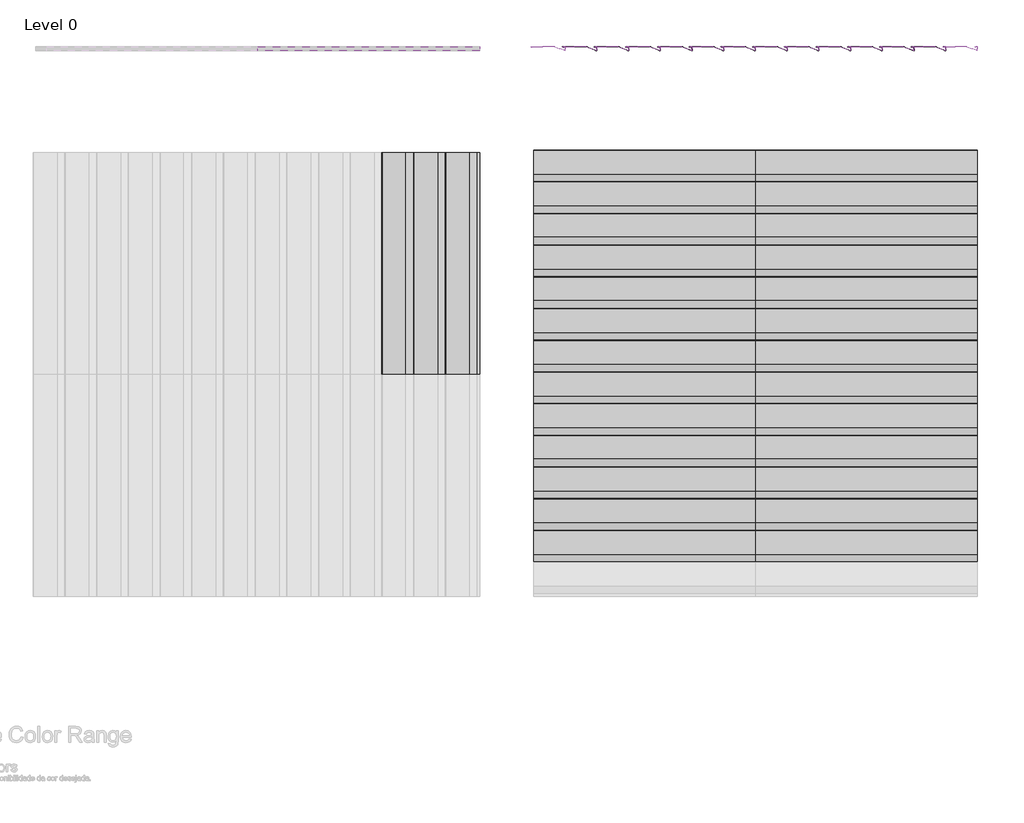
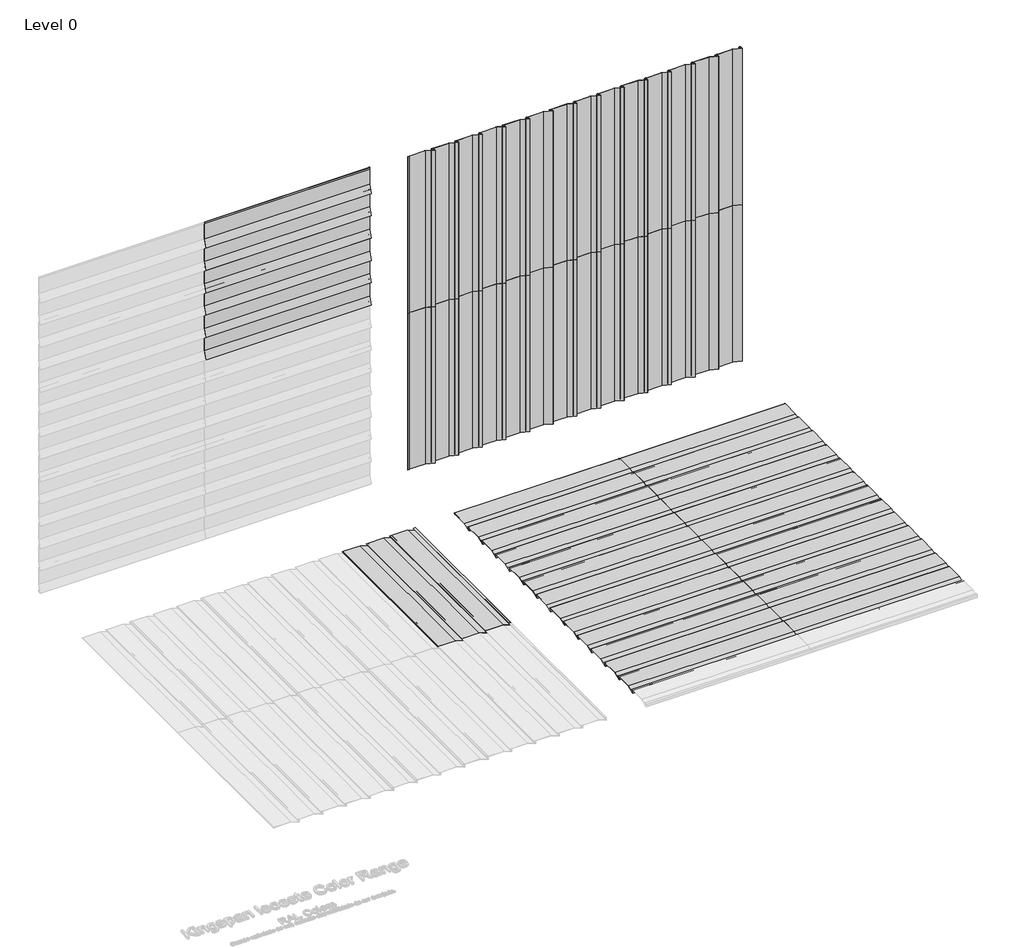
# One storey, part 2 of 2: 63 proxies.
"""IFC4 building model written with IfcOpenShell, lengths in millimetres."""

import ifcopenshell
import ifcopenshell.guid

model = None  # the IFC model being written
_history = None  # IfcOwnerHistory: only IFC2X3 demands one
_inside = {}  # id of a spatial element -> (the spatial element, [elements in it])
_under = {}  # id of a project, library or spatial element -> (it, [spatial elements below it])
_declared = {}  # id of a project -> (the project, [libraries it declares])
_typed = {}  # id of a type object -> (the type object, [elements of that type])
_made_of = {}  # id of a material, layer set ... -> (it, [elements and type objects made of it])


def new_model(schema):
    """Start an empty IFC model of exactly this schema.

    Asked for "IFC4X3", IfcOpenShell would pick the latest addendum, in which some entities
    have other attributes; the version numbers below select the first issue.
    IFC2X3 requires an IfcOwnerHistory on every rooted entity: one is made here for all.
    """
    global model, _history
    if schema == "IFC4X3":
        model = ifcopenshell.file(schema_version=(4, 3, 0, 0))
    else:
        model = ifcopenshell.file(schema=schema)
    _inside.clear()
    _under.clear()
    _declared.clear()
    _typed.clear()
    _made_of.clear()
    _history = None
    if model.schema == "IFC2X3":
        org = make("IfcOrganization", Name="unknown")
        user = make(
            "IfcPersonAndOrganization",
            ThePerson=make("IfcPerson", FamilyName="unknown"),
            TheOrganization=org,
        )
        app = make(
            "IfcApplication",
            ApplicationDeveloper=org,
            Version="unknown",
            ApplicationFullName="unknown",
            ApplicationIdentifier="unknown",
        )
        _history = make(
            "IfcOwnerHistory",
            OwningUser=user,
            OwningApplication=app,
            ChangeAction="ADDED",
            CreationDate=0,
        )
    return model


def make(cls, **values):
    """One entity of the class cls with the attributes given. An attribute that is None is left unset."""
    return model.create_entity(
        cls, **{name: value for name, value in values.items() if value is not None}
    )


def rooted(cls, **values):
    """An entity with a GlobalId (a new one), such as an element, a storey or a relation."""
    return make(cls, GlobalId=ifcopenshell.guid.new(), OwnerHistory=_history, **values)


def si_unit(unit_type, name, prefix=None):
    """IfcSIUnit, for example si_unit("LENGTHUNIT", "METRE", prefix="MILLI")."""
    return make("IfcSIUnit", UnitType=unit_type, Prefix=prefix, Name=name)


def assignment(units):
    """IfcUnitAssignment: the units of a project."""
    return None if units is None else make("IfcUnitAssignment", Units=units)


def point(xyz):
    """IfcCartesianPoint."""
    return None if xyz is None else make("IfcCartesianPoint", Coordinates=xyz)


def direction(xyz):
    """IfcDirection."""
    return None if xyz is None else make("IfcDirection", DirectionRatios=xyz)


def frame(location, z_axis=None, x_axis=None):
    """IfcAxis2Placement3D, a coordinate frame: its origin and axes. An axis left out is left unset."""
    return make(
        "IfcAxis2Placement3D",
        Location=point(location),
        Axis=direction(z_axis),
        RefDirection=direction(x_axis),
    )


def frame_2d(location, x_axis=None):
    """IfcAxis2Placement2D, a coordinate frame in the plane: its origin and x axis."""
    return make(
        "IfcAxis2Placement2D", Location=point(location), RefDirection=direction(x_axis)
    )


def origin():
    """The frame at (0, 0, 0) with its axes left unset."""
    return frame((0.0, 0.0, 0.0))


def place(relative_to, where):
    """IfcLocalPlacement: puts the frame where relative to a parent placement (None: the world)."""
    return make(
        "IfcLocalPlacement", PlacementRelTo=relative_to, RelativePlacement=where
    )


def context(
    kind, dimensions, precision=None, world=None, true_north=None, identifier=None
):
    """IfcGeometricRepresentationContext, for example the 3D "Model" context."""
    return make(
        "IfcGeometricRepresentationContext",
        ContextIdentifier=identifier,
        ContextType=kind,
        CoordinateSpaceDimension=dimensions,
        Precision=precision,
        WorldCoordinateSystem=world,
        TrueNorth=true_north,
    )


def project(units=None, contexts=None):
    """IfcProject with its units and contexts."""
    return rooted(
        "IfcProject",
        Name="project",
        RepresentationContexts=contexts,
        UnitsInContext=assignment(units),
    )


def spatial(cls, under=None, at=None, **own):
    """A site, building, storey or space (cls), placed at a placement, below another one or the project."""
    s = rooted(cls, ObjectPlacement=at, **own)
    if under is not None:
        _under.setdefault(under.id(), (under, []))[1].append(s)
    return s


def polyline(points):
    """IfcPolyline through the points."""
    return make("IfcPolyline", Points=[point(p) for p in points])


def circle_curve(where, radius):
    """IfcCircle in the frame where."""
    return make("IfcCircle", Position=where, Radius=radius)


def trimmed(basis, trim1, trim2, sense, master):
    """IfcTrimmedCurve: the piece of a basis curve between two trims."""
    return make(
        "IfcTrimmedCurve",
        BasisCurve=basis,
        Trim1=trim1,
        Trim2=trim2,
        SenseAgreement=sense,
        MasterRepresentation=master,
    )


def segment(curve, same_sense, transition):
    """IfcCompositeCurveSegment."""
    return make(
        "IfcCompositeCurveSegment",
        Transition=transition,
        SameSense=same_sense,
        ParentCurve=curve,
    )


def composite_curve(segments, self_intersect=None):
    """IfcCompositeCurve: segments joined end to end."""
    return make("IfcCompositeCurve", Segments=segments, SelfIntersect=self_intersect)


def outline(outer, holes=None, kind="AREA"):
    """IfcArbitraryClosedProfileDef: a profile drawn as a closed curve; with holes, ...WithVoids."""
    if holes is None:
        return make("IfcArbitraryClosedProfileDef", ProfileType=kind, OuterCurve=outer)
    return make(
        "IfcArbitraryProfileDefWithVoids",
        ProfileType=kind,
        OuterCurve=outer,
        InnerCurves=holes,
    )


def extrude(swept, where, along, depth):
    """IfcExtrudedAreaSolid: the profile swept, set in the frame where, extruded along a direction by depth."""
    return make(
        "IfcExtrudedAreaSolid",
        SweptArea=swept,
        Position=where,
        ExtrudedDirection=direction(along),
        Depth=depth,
    )


def shape(context_of_items, identifier, shape_type, items):
    """IfcShapeRepresentation: the items that make up one representation, for example the "Body"."""
    return make(
        "IfcShapeRepresentation",
        ContextOfItems=context_of_items,
        RepresentationIdentifier=identifier,
        RepresentationType=shape_type,
        Items=items,
    )


def source(mapping_origin, context_of_items, identifier, shape_type, items):
    """IfcRepresentationMap: a shape defined once, which mapped items show again and again."""
    return make(
        "IfcRepresentationMap",
        MappingOrigin=mapping_origin,
        MappedRepresentation=shape(context_of_items, identifier, shape_type, items),
    )


def transform(
    local_origin,
    x_axis=None,
    y_axis=None,
    z_axis=None,
    scale=None,
    scale2=None,
    scale3=None,
    uniform=True,
):
    """IfcCartesianTransformationOperator3D, or its non-uniform kind. x_axis, y_axis, z_axis: its Axis1, 2, 3."""
    if uniform:
        return make(
            "IfcCartesianTransformationOperator3D",
            Axis1=direction(x_axis),
            Axis2=direction(y_axis),
            LocalOrigin=point(local_origin),
            Scale=scale,
            Axis3=direction(z_axis),
        )
    return make(
        "IfcCartesianTransformationOperator3DnonUniform",
        Axis1=direction(x_axis),
        Axis2=direction(y_axis),
        LocalOrigin=point(local_origin),
        Scale=scale,
        Axis3=direction(z_axis),
        Scale2=scale2,
        Scale3=scale3,
    )


def mapped(mapping_source, mapping_target):
    """IfcMappedItem: shows the shape of a source again, moved by a transform."""
    return make(
        "IfcMappedItem", MappingSource=mapping_source, MappingTarget=mapping_target
    )


def made_of(thing, what):
    """Note that an element or type object is made of a material, layer set ...; save() writes the relation."""
    if what is not None:
        _made_of.setdefault(what.id(), (what, []))[1].append(thing)
    return thing


def element(
    cls,
    number,
    at=None,
    inside=None,
    cuts=None,
    type_object=None,
    material=None,
    context=None,
    identifier="Body",
    shape_type=None,
    held_by="IfcProductDefinitionShape",
    body=None,
    shapes=None,
    **own,
):
    """One element of the class cls, such as IfcWall. Its Tag is "e" and its number.

    at: its placement. inside: the storey or other place that contains it. cuts: it is an
    opening in that element (IfcRelVoidsElement). A single representation is given by context,
    identifier, shape_type and body (its items); several are given by shapes. held_by: the class
    of the entity that holds the representations. save() writes the other relations.
    """
    e = rooted(cls, Tag="e%d" % number, ObjectPlacement=at, **own)
    if body is not None:
        shapes = [shape(context, identifier, shape_type, body)]
    if shapes is not None:
        e.Representation = make(held_by, Representations=shapes)
    if inside is not None:
        _inside.setdefault(inside.id(), (inside, []))[1].append(e)
    if cuts is not None:
        rooted(
            "IfcRelVoidsElement", RelatingBuildingElement=cuts, RelatedOpeningElement=e
        )
    if type_object is not None:
        _typed.setdefault(type_object.id(), (type_object, []))[1].append(e)
    return made_of(e, material)


def aggregate(whole, parts):
    """IfcRelAggregates: a whole, such as a stair, and the parts it consists of."""
    return rooted("IfcRelAggregates", RelatingObject=whole, RelatedObjects=parts)


def save(model, path):
    """Write the relations noted so far, then the file.

    IfcRelAggregates (storeys below a building ...), IfcRelContainedInSpatialStructure (elements
    in a storey), IfcRelDefinesByType, IfcRelAssociatesMaterial and IfcRelDeclares: one each for
    every whole, place, type object, material and project.
    """
    for whole, parts in _under.values():
        aggregate(whole, parts)
    for where, things in _inside.values():
        rooted(
            "IfcRelContainedInSpatialStructure",
            RelatedElements=things,
            RelatingStructure=where,
        )
    for kind, things in _typed.values():
        rooted("IfcRelDefinesByType", RelatedObjects=things, RelatingType=kind)
    for what, things in _made_of.values():
        rooted("IfcRelAssociatesMaterial", RelatedObjects=things, RelatingMaterial=what)
    for by, libraries in _declared.values():
        rooted("IfcRelDeclares", RelatingContext=by, RelatedDefinitions=libraries)
    model.write(path)


def ps2_0_standard_panel_ns_86166604(model_context):
    return source(origin(), model_context, "Body", "SweptSolid", [
        extrude(outline(composite_curve([segment(polyline([(0.0, 0.0), (0.0, 38.0), (100.0, 0.0), (324.8317866, 0.0)]), True, "CONTINUOUS"), segment(trimmed(circle_curve(frame_2d((324.3094696, 0.9153551)), 1.0538928), [point((324.8317866, 0.0))], [point((324.8448691, 1.8231201))], True, "CARTESIAN"), True, "CONTINUOUS"), segment(polyline([(324.8448691, 1.8231201), (308.5989911, 4.94103), (308.7874714, 5.923107), (325.1748462, 2.778041)]), True, "CONTINUOUS"), segment(trimmed(circle_curve(frame_2d((324.3094696, 0.9153551)), 2.0538928), [point((325.1748462, 2.778041))], [point((325.0510156, -1.0))], False, "CARTESIAN"), True, "CONTINUOUS"), segment(polyline([(325.0510156, -1.0), (99.8164044, -1.0), (1.0, 36.5502337), (1.0, 1.0), (25.0, 1.0), (25.0, 0.0), (0.0, 0.0)]), True, "CONTINUOUS")], self_intersect=False)), frame((0.0, 0.0, 0.0), z_axis=(1.0, 0.0, 0.0), x_axis=(0.0, 1.0, 0.0)), (0.0, 0.0, 1.0), 2100.0),
    ])


def ps2_0_standard_panel_ns_643a3163(model_context):
    return source(origin(), model_context, "Body", "SweptSolid", [
        extrude(outline(composite_curve([segment(polyline([(0.0, 0.0), (25.0, 0.0), (25.0, -1.0), (1.0, -1.0), (1.0, -36.5502337), (99.8164044, 1.0), (325.0510156, 1.0)]), True, "CONTINUOUS"), segment(trimmed(circle_curve(frame_2d((324.3094696, -0.9153551)), 2.0538928), [point((325.0510156, 1.0))], [point((325.1748462, -2.778041))], False, "CARTESIAN"), True, "CONTINUOUS"), segment(polyline([(325.1748462, -2.778041), (308.7874714, -5.923107), (308.5989911, -4.94103), (324.8448691, -1.8231201)]), True, "CONTINUOUS"), segment(trimmed(circle_curve(frame_2d((324.3094696, -0.9153551)), 1.0538928), [point((324.8448691, -1.8231201))], [point((324.8317866, 0.0))], True, "CARTESIAN"), True, "CONTINUOUS"), segment(polyline([(324.8317866, 0.0), (100.0, 0.0), (0.0, -38.0), (0.0, 0.0)]), True, "CONTINUOUS")], self_intersect=False)), frame((0.0, 0.0, 0.0), z_axis=(1.0, 0.0, 0.0), x_axis=(0.0, 1.0, 0.0)), (0.0, 0.0, 1.0), 2100.0),
    ])


model = new_model("IFC4")

# Units and contexts
model_context = context("Model", 3, world=origin())
ifc_project = project(units=[si_unit("LENGTHUNIT", "METRE", prefix="MILLI")], contexts=[model_context])

# Site, building, storey
site = spatial("IfcSite", under=ifc_project)
building = spatial("IfcBuilding", under=site)
storey = spatial("IfcBuildingStorey", under=building, Name="Level 0", Elevation=0.0)

# Proxies
placement = place(None, origin())
ps2_0_standard_panel_ns_shape = ps2_0_standard_panel_ns_86166604(model_context)
element("IfcBuildingElementProxy", 1, Name="PS2.0 : Standard Panel_NS", ObjectType="PS2.0 : Standard Panel_NS", at=placement, inside=storey, context=model_context, shape_type="MappedRepresentation", body=[
    mapped(ps2_0_standard_panel_ns_shape, transform((2489.7088665, 5063.0274074, 0.0), x_axis=(0.0, 0.0, 1.0), y_axis=(-1.0, 0.0, 0.0), z_axis=(0.0, -1.0, 0.0))),
])
element("IfcBuildingElementProxy", 2, Name="PS2.0 : Standard Panel_NS", ObjectType="PS2.0 : Standard Panel_NS", at=placement, inside=storey, context=model_context, shape_type="MappedRepresentation", body=[
    mapped(ps2_0_standard_panel_ns_shape, transform((2489.7088665, 5063.0274074, 2100.0), x_axis=(0.0, 0.0, 1.0), y_axis=(-1.0, 0.0, 0.0), z_axis=(0.0, -1.0, 0.0))),
])
element("IfcBuildingElementProxy", 3, Name="PS2.0 : Standard Panel_NS", ObjectType="PS2.0 : Standard Panel_NS", at=placement, inside=storey, context=model_context, shape_type="MappedRepresentation", body=[
    mapped(ps2_0_standard_panel_ns_shape, transform((-1317.7637295, 5063.0274074, 3000.0), x_axis=(1.0, 0.0, 0.0), y_axis=(0.0, 0.0, 1.0), z_axis=(0.0, -1.0, 0.0))),
])
element("IfcBuildingElementProxy", 4, Name="PS2.0 : Standard Panel_NS", ObjectType="PS2.0 : Standard Panel_NS", at=placement, inside=storey, context=model_context, shape_type="MappedRepresentation", body=[
    mapped(ps2_0_standard_panel_ns_shape, transform((4889.7088665, 5063.0274074, 0.0), x_axis=(0.0, 0.0, 1.0), y_axis=(-1.0, 0.0, 0.0), z_axis=(0.0, -1.0, 0.0))),
])
element("IfcBuildingElementProxy", 5, Name="PS2.0 : Standard Panel_NS", ObjectType="PS2.0 : Standard Panel_NS", at=placement, inside=storey, context=model_context, shape_type="MappedRepresentation", body=[
    mapped(ps2_0_standard_panel_ns_shape, transform((4889.7088665, 5063.0274074, 2100.0), x_axis=(0.0, 0.0, 1.0), y_axis=(-1.0, 0.0, 0.0), z_axis=(0.0, -1.0, 0.0))),
])
ps2_0_standard_panel_ns_2_shape = ps2_0_standard_panel_ns_643a3163(model_context)
element("IfcBuildingElementProxy", 6, Name="PS2.0 : Standard Panel_NS", ObjectType="PS2.0 : Standard Panel_NS", at=placement, inside=storey, context=model_context, shape_type="MappedRepresentation", body=[
    mapped(ps2_0_standard_panel_ns_2_shape, transform((1289.7088668, 458.3113453, 0.0), x_axis=(1.0, 0.0, 0.0), y_axis=(0.0, 1.0, 0.0), z_axis=(0.0, 0.0, 1.0))),
])
element("IfcBuildingElementProxy", 7, Name="PS2.0 : Standard Panel_NS", ObjectType="PS2.0 : Standard Panel_NS", at=placement, inside=storey, context=model_context, shape_type="MappedRepresentation", body=[
    mapped(ps2_0_standard_panel_ns_2_shape, transform((1289.7088668, 2858.3113453, 0.0), x_axis=(1.0, 0.0, 0.0), y_axis=(0.0, 1.0, 0.0), z_axis=(0.0, 0.0, 1.0))),
])
element("IfcBuildingElementProxy", 8, Name="PS2.0 : Standard Panel_NS", ObjectType="PS2.0 : Standard Panel_NS", at=placement, inside=storey, context=model_context, shape_type="MappedRepresentation", body=[
    mapped(ps2_0_standard_panel_ns_2_shape, transform((182.2362703, 1958.3113453, 0.0), x_axis=(0.0, 1.0, 0.0), y_axis=(-1.0, 0.0, 0.0), z_axis=(0.0, 0.0, 1.0))),
])
element("IfcBuildingElementProxy", 9, Name="PS2.0 : Standard Panel_NS", ObjectType="PS2.0 : Standard Panel_NS", at=placement, inside=storey, context=model_context, shape_type="MappedRepresentation", body=[
    mapped(ps2_0_standard_panel_ns_2_shape, transform((3389.7088668, 458.3113453, 0.0), x_axis=(1.0, 0.0, 0.0), y_axis=(0.0, 1.0, 0.0), z_axis=(0.0, 0.0, 1.0))),
])
element("IfcBuildingElementProxy", 10, Name="PS2.0 : Standard Panel_NS", ObjectType="PS2.0 : Standard Panel_NS", at=placement, inside=storey, context=model_context, shape_type="MappedRepresentation", body=[
    mapped(ps2_0_standard_panel_ns_2_shape, transform((3389.7088668, 2858.3113453, 0.0), x_axis=(1.0, 0.0, 0.0), y_axis=(0.0, 1.0, 0.0), z_axis=(0.0, 0.0, 1.0))),
])
element("IfcBuildingElementProxy", 11, Name="PS2.0 : Standard Panel_NS", ObjectType="PS2.0 : Standard Panel_NS", at=placement, inside=storey, context=model_context, shape_type="MappedRepresentation", body=[
    mapped(ps2_0_standard_panel_ns_shape, transform((3089.7088665, 5063.0274074, 0.0), x_axis=(0.0, 0.0, 1.0), y_axis=(-1.0, 0.0, 0.0), z_axis=(0.0, -1.0, 0.0))),
])
element("IfcBuildingElementProxy", 12, Name="PS2.0 : Standard Panel_NS", ObjectType="PS2.0 : Standard Panel_NS", at=placement, inside=storey, context=model_context, shape_type="MappedRepresentation", body=[
    mapped(ps2_0_standard_panel_ns_shape, transform((3089.7088665, 5063.0274074, 2100.0), x_axis=(0.0, 0.0, 1.0), y_axis=(-1.0, 0.0, 0.0), z_axis=(0.0, -1.0, 0.0))),
])
element("IfcBuildingElementProxy", 13, Name="PS2.0 : Standard Panel_NS", ObjectType="PS2.0 : Standard Panel_NS", at=placement, inside=storey, context=model_context, shape_type="MappedRepresentation", body=[
    mapped(ps2_0_standard_panel_ns_shape, transform((-1317.7637295, 5063.0274074, 2400.0), x_axis=(1.0, 0.0, 0.0), y_axis=(0.0, 0.0, 1.0), z_axis=(0.0, -1.0, 0.0))),
])
element("IfcBuildingElementProxy", 14, Name="PS2.0 : Standard Panel_NS", ObjectType="PS2.0 : Standard Panel_NS", at=placement, inside=storey, context=model_context, shape_type="MappedRepresentation", body=[
    mapped(ps2_0_standard_panel_ns_shape, transform((5489.7088666, 5063.0274074, 0.0), x_axis=(0.0, 0.0, 1.0), y_axis=(-1.0, 0.0, 0.0), z_axis=(0.0, -1.0, 0.0))),
])
element("IfcBuildingElementProxy", 15, Name="PS2.0 : Standard Panel_NS", ObjectType="PS2.0 : Standard Panel_NS", at=placement, inside=storey, context=model_context, shape_type="MappedRepresentation", body=[
    mapped(ps2_0_standard_panel_ns_shape, transform((5489.7088666, 5063.0274074, 2100.0), x_axis=(0.0, 0.0, 1.0), y_axis=(-1.0, 0.0, 0.0), z_axis=(0.0, -1.0, 0.0))),
])
element("IfcBuildingElementProxy", 16, Name="PS2.0 : Standard Panel_NS", ObjectType="PS2.0 : Standard Panel_NS", at=placement, inside=storey, context=model_context, shape_type="MappedRepresentation", body=[
    mapped(ps2_0_standard_panel_ns_2_shape, transform((1289.7088668, 2258.3113453, 0.0), x_axis=(1.0, 0.0, 0.0), y_axis=(0.0, 1.0, 0.0), z_axis=(0.0, 0.0, 1.0))),
])
element("IfcBuildingElementProxy", 17, Name="PS2.0 : Standard Panel_NS", ObjectType="PS2.0 : Standard Panel_NS", at=placement, inside=storey, context=model_context, shape_type="MappedRepresentation", body=[
    mapped(ps2_0_standard_panel_ns_2_shape, transform((782.2362705, 1958.3113453, 0.0), x_axis=(0.0, 1.0, 0.0), y_axis=(-1.0, 0.0, 0.0), z_axis=(0.0, 0.0, 1.0))),
])
element("IfcBuildingElementProxy", 18, Name="PS2.0 : Standard Panel_NS", ObjectType="PS2.0 : Standard Panel_NS", at=placement, inside=storey, context=model_context, shape_type="MappedRepresentation", body=[
    mapped(ps2_0_standard_panel_ns_2_shape, transform((3389.7088668, 2258.3113453, 0.0), x_axis=(1.0, 0.0, 0.0), y_axis=(0.0, 1.0, 0.0), z_axis=(0.0, 0.0, 1.0))),
])
element("IfcBuildingElementProxy", 19, Name="PS2.0 : Standard Panel_NS", ObjectType="PS2.0 : Standard Panel_NS", at=placement, inside=storey, context=model_context, shape_type="MappedRepresentation", body=[
    mapped(ps2_0_standard_panel_ns_2_shape, transform((1289.7088668, 1358.3113453, 0.0), x_axis=(1.0, 0.0, 0.0), y_axis=(0.0, 1.0, 0.0), z_axis=(0.0, 0.0, 1.0))),
])
element("IfcBuildingElementProxy", 20, Name="PS2.0 : Standard Panel_NS", ObjectType="PS2.0 : Standard Panel_NS", at=placement, inside=storey, context=model_context, shape_type="MappedRepresentation", body=[
    mapped(ps2_0_standard_panel_ns_2_shape, transform((1289.7088668, 3758.3113453, 0.0), x_axis=(1.0, 0.0, 0.0), y_axis=(0.0, 1.0, 0.0), z_axis=(0.0, 0.0, 1.0))),
])
element("IfcBuildingElementProxy", 21, Name="PS2.0 : Standard Panel_NS", ObjectType="PS2.0 : Standard Panel_NS", at=placement, inside=storey, context=model_context, shape_type="MappedRepresentation", body=[
    mapped(ps2_0_standard_panel_ns_2_shape, transform((3389.7088668, 1358.3113453, 0.0), x_axis=(1.0, 0.0, 0.0), y_axis=(0.0, 1.0, 0.0), z_axis=(0.0, 0.0, 1.0))),
])
element("IfcBuildingElementProxy", 22, Name="PS2.0 : Standard Panel_NS", ObjectType="PS2.0 : Standard Panel_NS", at=placement, inside=storey, context=model_context, shape_type="MappedRepresentation", body=[
    mapped(ps2_0_standard_panel_ns_2_shape, transform((3389.7088668, 3758.3113453, 0.0), x_axis=(1.0, 0.0, 0.0), y_axis=(0.0, 1.0, 0.0), z_axis=(0.0, 0.0, 1.0))),
])
element("IfcBuildingElementProxy", 23, Name="PS2.0 : Standard Panel_NS", ObjectType="PS2.0 : Standard Panel_NS", at=placement, inside=storey, context=model_context, shape_type="MappedRepresentation", body=[
    mapped(ps2_0_standard_panel_ns_2_shape, transform((1289.7088668, 158.3113453, 0.0), x_axis=(1.0, 0.0, 0.0), y_axis=(0.0, 1.0, 0.0), z_axis=(0.0, 0.0, 1.0))),
])
element("IfcBuildingElementProxy", 24, Name="PS2.0 : Standard Panel_NS", ObjectType="PS2.0 : Standard Panel_NS", at=placement, inside=storey, context=model_context, shape_type="MappedRepresentation", body=[
    mapped(ps2_0_standard_panel_ns_2_shape, transform((1289.7088668, 2558.3113453, 0.0), x_axis=(1.0, 0.0, 0.0), y_axis=(0.0, 1.0, 0.0), z_axis=(0.0, 0.0, 1.0))),
])
element("IfcBuildingElementProxy", 25, Name="PS2.0 : Standard Panel_NS", ObjectType="PS2.0 : Standard Panel_NS", at=placement, inside=storey, context=model_context, shape_type="MappedRepresentation", body=[
    mapped(ps2_0_standard_panel_ns_2_shape, transform((482.2362703, 1958.3113453, 0.0), x_axis=(0.0, 1.0, 0.0), y_axis=(-1.0, 0.0, 0.0), z_axis=(0.0, 0.0, 1.0))),
])
element("IfcBuildingElementProxy", 26, Name="PS2.0 : Standard Panel_NS", ObjectType="PS2.0 : Standard Panel_NS", at=placement, inside=storey, context=model_context, shape_type="MappedRepresentation", body=[
    mapped(ps2_0_standard_panel_ns_2_shape, transform((3389.7088668, 158.3113453, 0.0), x_axis=(1.0, 0.0, 0.0), y_axis=(0.0, 1.0, 0.0), z_axis=(0.0, 0.0, 1.0))),
])
element("IfcBuildingElementProxy", 27, Name="PS2.0 : Standard Panel_NS", ObjectType="PS2.0 : Standard Panel_NS", at=placement, inside=storey, context=model_context, shape_type="MappedRepresentation", body=[
    mapped(ps2_0_standard_panel_ns_2_shape, transform((3389.7088668, 2558.3113453, 0.0), x_axis=(1.0, 0.0, 0.0), y_axis=(0.0, 1.0, 0.0), z_axis=(0.0, 0.0, 1.0))),
])
element("IfcBuildingElementProxy", 28, Name="PS2.0 : Standard Panel_NS", ObjectType="PS2.0 : Standard Panel_NS", at=placement, inside=storey, context=model_context, shape_type="MappedRepresentation", body=[
    mapped(ps2_0_standard_panel_ns_2_shape, transform((1289.7088668, 758.3113453, 0.0), x_axis=(1.0, 0.0, 0.0), y_axis=(0.0, 1.0, 0.0), z_axis=(0.0, 0.0, 1.0))),
])
element("IfcBuildingElementProxy", 29, Name="PS2.0 : Standard Panel_NS", ObjectType="PS2.0 : Standard Panel_NS", at=placement, inside=storey, context=model_context, shape_type="MappedRepresentation", body=[
    mapped(ps2_0_standard_panel_ns_2_shape, transform((1289.7088668, 3158.3113453, 0.0), x_axis=(1.0, 0.0, 0.0), y_axis=(0.0, 1.0, 0.0), z_axis=(0.0, 0.0, 1.0))),
])
element("IfcBuildingElementProxy", 30, Name="PS2.0 : Standard Panel_NS", ObjectType="PS2.0 : Standard Panel_NS", at=placement, inside=storey, context=model_context, shape_type="MappedRepresentation", body=[
    mapped(ps2_0_standard_panel_ns_2_shape, transform((3389.7088668, 758.3113453, 0.0), x_axis=(1.0, 0.0, 0.0), y_axis=(0.0, 1.0, 0.0), z_axis=(0.0, 0.0, 1.0))),
])
element("IfcBuildingElementProxy", 31, Name="PS2.0 : Standard Panel_NS", ObjectType="PS2.0 : Standard Panel_NS", at=placement, inside=storey, context=model_context, shape_type="MappedRepresentation", body=[
    mapped(ps2_0_standard_panel_ns_2_shape, transform((3389.7088668, 3158.3113453, 0.0), x_axis=(1.0, 0.0, 0.0), y_axis=(0.0, 1.0, 0.0), z_axis=(0.0, 0.0, 1.0))),
])
element("IfcBuildingElementProxy", 32, Name="PS2.0 : Standard Panel_NS", ObjectType="PS2.0 : Standard Panel_NS", at=placement, inside=storey, context=model_context, shape_type="MappedRepresentation", body=[
    mapped(ps2_0_standard_panel_ns_2_shape, transform((1289.7088668, 1058.3113453, 0.0), x_axis=(1.0, 0.0, 0.0), y_axis=(0.0, 1.0, 0.0), z_axis=(0.0, 0.0, 1.0))),
])
element("IfcBuildingElementProxy", 33, Name="PS2.0 : Standard Panel_NS", ObjectType="PS2.0 : Standard Panel_NS", at=placement, inside=storey, context=model_context, shape_type="MappedRepresentation", body=[
    mapped(ps2_0_standard_panel_ns_2_shape, transform((1289.7088668, 3458.3113453, 0.0), x_axis=(1.0, 0.0, 0.0), y_axis=(0.0, 1.0, 0.0), z_axis=(0.0, 0.0, 1.0))),
])
element("IfcBuildingElementProxy", 34, Name="PS2.0 : Standard Panel_NS", ObjectType="PS2.0 : Standard Panel_NS", at=placement, inside=storey, context=model_context, shape_type="MappedRepresentation", body=[
    mapped(ps2_0_standard_panel_ns_2_shape, transform((3389.7088668, 1058.3113453, 0.0), x_axis=(1.0, 0.0, 0.0), y_axis=(0.0, 1.0, 0.0), z_axis=(0.0, 0.0, 1.0))),
])
element("IfcBuildingElementProxy", 35, Name="PS2.0 : Standard Panel_NS", ObjectType="PS2.0 : Standard Panel_NS", at=placement, inside=storey, context=model_context, shape_type="MappedRepresentation", body=[
    mapped(ps2_0_standard_panel_ns_2_shape, transform((3389.7088668, 3458.3113453, 0.0), x_axis=(1.0, 0.0, 0.0), y_axis=(0.0, 1.0, 0.0), z_axis=(0.0, 0.0, 1.0))),
])
element("IfcBuildingElementProxy", 36, Name="PS2.0 : Standard Panel_NS", ObjectType="PS2.0 : Standard Panel_NS", at=placement, inside=storey, context=model_context, shape_type="MappedRepresentation", body=[
    mapped(ps2_0_standard_panel_ns_2_shape, transform((1289.7088668, 1658.3113453, 0.0), x_axis=(1.0, 0.0, 0.0), y_axis=(0.0, 1.0, 0.0), z_axis=(0.0, 0.0, 1.0))),
])
element("IfcBuildingElementProxy", 37, Name="PS2.0 : Standard Panel_NS", ObjectType="PS2.0 : Standard Panel_NS", at=placement, inside=storey, context=model_context, shape_type="MappedRepresentation", body=[
    mapped(ps2_0_standard_panel_ns_2_shape, transform((3389.7088668, 1658.3113453, 0.0), x_axis=(1.0, 0.0, 0.0), y_axis=(0.0, 1.0, 0.0), z_axis=(0.0, 0.0, 1.0))),
])
element("IfcBuildingElementProxy", 38, Name="PS2.0 : Standard Panel_NS", ObjectType="PS2.0 : Standard Panel_NS", at=placement, inside=storey, context=model_context, shape_type="MappedRepresentation", body=[
    mapped(ps2_0_standard_panel_ns_2_shape, transform((1289.7088668, 1958.3113453, 0.0), x_axis=(1.0, 0.0, 0.0), y_axis=(0.0, 1.0, 0.0), z_axis=(0.0, 0.0, 1.0))),
])
element("IfcBuildingElementProxy", 39, Name="PS2.0 : Standard Panel_NS", ObjectType="PS2.0 : Standard Panel_NS", at=placement, inside=storey, context=model_context, shape_type="MappedRepresentation", body=[
    mapped(ps2_0_standard_panel_ns_2_shape, transform((3389.7088668, 1958.3113453, 0.0), x_axis=(1.0, 0.0, 0.0), y_axis=(0.0, 1.0, 0.0), z_axis=(0.0, 0.0, 1.0))),
])
element("IfcBuildingElementProxy", 40, Name="PS2.0 : Standard Panel_NS", ObjectType="PS2.0 : Standard Panel_NS", at=placement, inside=storey, context=model_context, shape_type="MappedRepresentation", body=[
    mapped(ps2_0_standard_panel_ns_shape, transform((2789.7088665, 5063.0274074, 0.0), x_axis=(0.0, 0.0, 1.0), y_axis=(-1.0, 0.0, 0.0), z_axis=(0.0, -1.0, 0.0))),
])
element("IfcBuildingElementProxy", 41, Name="PS2.0 : Standard Panel_NS", ObjectType="PS2.0 : Standard Panel_NS", at=placement, inside=storey, context=model_context, shape_type="MappedRepresentation", body=[
    mapped(ps2_0_standard_panel_ns_shape, transform((2789.7088665, 5063.0274074, 2100.0), x_axis=(0.0, 0.0, 1.0), y_axis=(-1.0, 0.0, 0.0), z_axis=(0.0, -1.0, 0.0))),
])
element("IfcBuildingElementProxy", 42, Name="PS2.0 : Standard Panel_NS", ObjectType="PS2.0 : Standard Panel_NS", at=placement, inside=storey, context=model_context, shape_type="MappedRepresentation", body=[
    mapped(ps2_0_standard_panel_ns_shape, transform((-1317.7637295, 5063.0274074, 2700.0), x_axis=(1.0, 0.0, 0.0), y_axis=(0.0, 0.0, 1.0), z_axis=(0.0, -1.0, 0.0))),
])
element("IfcBuildingElementProxy", 43, Name="PS2.0 : Standard Panel_NS", ObjectType="PS2.0 : Standard Panel_NS", at=placement, inside=storey, context=model_context, shape_type="MappedRepresentation", body=[
    mapped(ps2_0_standard_panel_ns_shape, transform((5189.7088665, 5063.0274074, 0.0), x_axis=(0.0, 0.0, 1.0), y_axis=(-1.0, 0.0, 0.0), z_axis=(0.0, -1.0, 0.0))),
])
element("IfcBuildingElementProxy", 44, Name="PS2.0 : Standard Panel_NS", ObjectType="PS2.0 : Standard Panel_NS", at=placement, inside=storey, context=model_context, shape_type="MappedRepresentation", body=[
    mapped(ps2_0_standard_panel_ns_shape, transform((5189.7088665, 5063.0274074, 2100.0), x_axis=(0.0, 0.0, 1.0), y_axis=(-1.0, 0.0, 0.0), z_axis=(0.0, -1.0, 0.0))),
])
element("IfcBuildingElementProxy", 45, Name="PS2.0 : Standard Panel_NS", ObjectType="PS2.0 : Standard Panel_NS", at=placement, inside=storey, context=model_context, shape_type="MappedRepresentation", body=[
    mapped(ps2_0_standard_panel_ns_shape, transform((2189.7088665, 5063.0274074, 0.0), x_axis=(0.0, 0.0, 1.0), y_axis=(-1.0, 0.0, 0.0), z_axis=(0.0, -1.0, 0.0))),
])
element("IfcBuildingElementProxy", 46, Name="PS2.0 : Standard Panel_NS", ObjectType="PS2.0 : Standard Panel_NS", at=placement, inside=storey, context=model_context, shape_type="MappedRepresentation", body=[
    mapped(ps2_0_standard_panel_ns_shape, transform((2189.7088665, 5063.0274074, 2100.0), x_axis=(0.0, 0.0, 1.0), y_axis=(-1.0, 0.0, 0.0), z_axis=(0.0, -1.0, 0.0))),
])
element("IfcBuildingElementProxy", 47, Name="PS2.0 : Standard Panel_NS", ObjectType="PS2.0 : Standard Panel_NS", at=placement, inside=storey, context=model_context, shape_type="MappedRepresentation", body=[
    mapped(ps2_0_standard_panel_ns_shape, transform((-1317.7637295, 5063.0274074, 3300.0), x_axis=(1.0, 0.0, 0.0), y_axis=(0.0, 0.0, 1.0), z_axis=(0.0, -1.0, 0.0))),
])
element("IfcBuildingElementProxy", 48, Name="PS2.0 : Standard Panel_NS", ObjectType="PS2.0 : Standard Panel_NS", at=placement, inside=storey, context=model_context, shape_type="MappedRepresentation", body=[
    mapped(ps2_0_standard_panel_ns_shape, transform((4589.7088665, 5063.0274074, 0.0), x_axis=(0.0, 0.0, 1.0), y_axis=(-1.0, 0.0, 0.0), z_axis=(0.0, -1.0, 0.0))),
])
element("IfcBuildingElementProxy", 49, Name="PS2.0 : Standard Panel_NS", ObjectType="PS2.0 : Standard Panel_NS", at=placement, inside=storey, context=model_context, shape_type="MappedRepresentation", body=[
    mapped(ps2_0_standard_panel_ns_shape, transform((4589.7088665, 5063.0274074, 2100.0), x_axis=(0.0, 0.0, 1.0), y_axis=(-1.0, 0.0, 0.0), z_axis=(0.0, -1.0, 0.0))),
])
element("IfcBuildingElementProxy", 50, Name="PS2.0 : Standard Panel_NS", ObjectType="PS2.0 : Standard Panel_NS", at=placement, inside=storey, context=model_context, shape_type="MappedRepresentation", body=[
    mapped(ps2_0_standard_panel_ns_shape, transform((1889.7088665, 5063.0274074, 0.0), x_axis=(0.0, 0.0, 1.0), y_axis=(-1.0, 0.0, 0.0), z_axis=(0.0, -1.0, 0.0))),
])
element("IfcBuildingElementProxy", 51, Name="PS2.0 : Standard Panel_NS", ObjectType="PS2.0 : Standard Panel_NS", at=placement, inside=storey, context=model_context, shape_type="MappedRepresentation", body=[
    mapped(ps2_0_standard_panel_ns_shape, transform((1889.7088665, 5063.0274074, 2100.0), x_axis=(0.0, 0.0, 1.0), y_axis=(-1.0, 0.0, 0.0), z_axis=(0.0, -1.0, 0.0))),
])
element("IfcBuildingElementProxy", 52, Name="PS2.0 : Standard Panel_NS", ObjectType="PS2.0 : Standard Panel_NS", at=placement, inside=storey, context=model_context, shape_type="MappedRepresentation", body=[
    mapped(ps2_0_standard_panel_ns_shape, transform((-1317.7637295, 5063.0274074, 3600.0), x_axis=(1.0, 0.0, 0.0), y_axis=(0.0, 0.0, 1.0), z_axis=(0.0, -1.0, 0.0))),
])
element("IfcBuildingElementProxy", 53, Name="PS2.0 : Standard Panel_NS", ObjectType="PS2.0 : Standard Panel_NS", at=placement, inside=storey, context=model_context, shape_type="MappedRepresentation", body=[
    mapped(ps2_0_standard_panel_ns_shape, transform((4289.7088665, 5063.0274074, 0.0), x_axis=(0.0, 0.0, 1.0), y_axis=(-1.0, 0.0, 0.0), z_axis=(0.0, -1.0, 0.0))),
])
element("IfcBuildingElementProxy", 54, Name="PS2.0 : Standard Panel_NS", ObjectType="PS2.0 : Standard Panel_NS", at=placement, inside=storey, context=model_context, shape_type="MappedRepresentation", body=[
    mapped(ps2_0_standard_panel_ns_shape, transform((4289.7088665, 5063.0274074, 2100.0), x_axis=(0.0, 0.0, 1.0), y_axis=(-1.0, 0.0, 0.0), z_axis=(0.0, -1.0, 0.0))),
])
element("IfcBuildingElementProxy", 55, Name="PS2.0 : Standard Panel_NS", ObjectType="PS2.0 : Standard Panel_NS", at=placement, inside=storey, context=model_context, shape_type="MappedRepresentation", body=[
    mapped(ps2_0_standard_panel_ns_shape, transform((1589.7088666, 5063.0274074, 0.0), x_axis=(0.0, 0.0, 1.0), y_axis=(-1.0, 0.0, 0.0), z_axis=(0.0, -1.0, 0.0))),
])
element("IfcBuildingElementProxy", 56, Name="PS2.0 : Standard Panel_NS", ObjectType="PS2.0 : Standard Panel_NS", at=placement, inside=storey, context=model_context, shape_type="MappedRepresentation", body=[
    mapped(ps2_0_standard_panel_ns_shape, transform((1589.7088666, 5063.0274074, 2100.0), x_axis=(0.0, 0.0, 1.0), y_axis=(-1.0, 0.0, 0.0), z_axis=(0.0, -1.0, 0.0))),
])
element("IfcBuildingElementProxy", 57, Name="PS2.0 : Standard Panel_NS", ObjectType="PS2.0 : Standard Panel_NS", at=placement, inside=storey, context=model_context, shape_type="MappedRepresentation", body=[
    mapped(ps2_0_standard_panel_ns_shape, transform((-1317.7637295, 5063.0274074, 3900.0), x_axis=(1.0, 0.0, 0.0), y_axis=(0.0, 0.0, 1.0), z_axis=(0.0, -1.0, 0.0))),
])
element("IfcBuildingElementProxy", 58, Name="PS2.0 : Standard Panel_NS", ObjectType="PS2.0 : Standard Panel_NS", at=placement, inside=storey, context=model_context, shape_type="MappedRepresentation", body=[
    mapped(ps2_0_standard_panel_ns_shape, transform((3989.7088665, 5063.0274074, 0.0), x_axis=(0.0, 0.0, 1.0), y_axis=(-1.0, 0.0, 0.0), z_axis=(0.0, -1.0, 0.0))),
])
element("IfcBuildingElementProxy", 59, Name="PS2.0 : Standard Panel_NS", ObjectType="PS2.0 : Standard Panel_NS", at=placement, inside=storey, context=model_context, shape_type="MappedRepresentation", body=[
    mapped(ps2_0_standard_panel_ns_shape, transform((3989.7088665, 5063.0274074, 2100.0), x_axis=(0.0, 0.0, 1.0), y_axis=(-1.0, 0.0, 0.0), z_axis=(0.0, -1.0, 0.0))),
])
element("IfcBuildingElementProxy", 60, Name="PS2.0 : Standard Panel_NS", ObjectType="PS2.0 : Standard Panel_NS", at=placement, inside=storey, context=model_context, shape_type="MappedRepresentation", body=[
    mapped(ps2_0_standard_panel_ns_shape, transform((3689.7088665, 5063.0274074, 0.0), x_axis=(0.0, 0.0, 1.0), y_axis=(-1.0, 0.0, 0.0), z_axis=(0.0, -1.0, 0.0))),
])
element("IfcBuildingElementProxy", 61, Name="PS2.0 : Standard Panel_NS", ObjectType="PS2.0 : Standard Panel_NS", at=placement, inside=storey, context=model_context, shape_type="MappedRepresentation", body=[
    mapped(ps2_0_standard_panel_ns_shape, transform((3689.7088665, 5063.0274074, 2100.0), x_axis=(0.0, 0.0, 1.0), y_axis=(-1.0, 0.0, 0.0), z_axis=(0.0, -1.0, 0.0))),
])
element("IfcBuildingElementProxy", 62, Name="PS2.0 : Standard Panel_NS", ObjectType="PS2.0 : Standard Panel_NS", at=placement, inside=storey, context=model_context, shape_type="MappedRepresentation", body=[
    mapped(ps2_0_standard_panel_ns_shape, transform((3389.7088665, 5063.0274074, 0.0), x_axis=(0.0, 0.0, 1.0), y_axis=(-1.0, 0.0, 0.0), z_axis=(0.0, -1.0, 0.0))),
])
element("IfcBuildingElementProxy", 63, Name="PS2.0 : Standard Panel_NS", ObjectType="PS2.0 : Standard Panel_NS", at=placement, inside=storey, context=model_context, shape_type="MappedRepresentation", body=[
    mapped(ps2_0_standard_panel_ns_shape, transform((3389.7088665, 5063.0274074, 2100.0), x_axis=(0.0, 0.0, 1.0), y_axis=(-1.0, 0.0, 0.0), z_axis=(0.0, -1.0, 0.0))),
])

save(model, "model.ifc")
